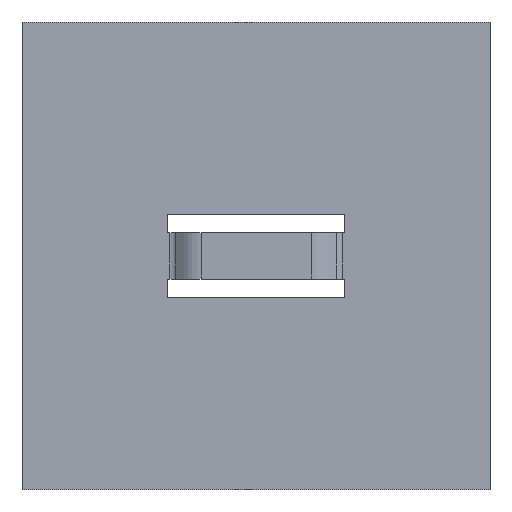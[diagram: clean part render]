
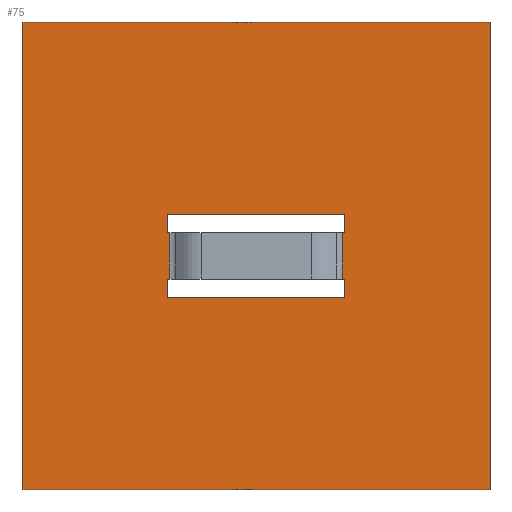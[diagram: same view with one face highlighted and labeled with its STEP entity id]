
A CAD part, top view. The second image highlights one B-rep face of the part: STEP entity #75.
In plain terms, the highlighted planar face has unit normal (0, 0, 1).
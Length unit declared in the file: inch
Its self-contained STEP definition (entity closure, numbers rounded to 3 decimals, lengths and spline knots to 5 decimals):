
#75=ADVANCED_FACE('',(#104,#105),#106,.T.);
#104=FACE_BOUND('',#162,.T.);
#105=FACE_OUTER_BOUND('',#163,.T.);
#106=PLANE('',#164);
#162=EDGE_LOOP('',(#220,#221,#222,#223,#224,#225,#226,#227,#228,#229,#230,#231));
#163=EDGE_LOOP('',(#232,#233,#234,#235));
#164=AXIS2_PLACEMENT_3D('',#236,#237,#238);
#220=ORIENTED_EDGE('',*,*,#472,.T.);
#221=ORIENTED_EDGE('',*,*,#473,.T.);
#222=ORIENTED_EDGE('',*,*,#474,.F.);
#223=ORIENTED_EDGE('',*,*,#475,.T.);
#224=ORIENTED_EDGE('',*,*,#476,.T.);
#225=ORIENTED_EDGE('',*,*,#477,.T.);
#226=ORIENTED_EDGE('',*,*,#478,.T.);
#227=ORIENTED_EDGE('',*,*,#479,.F.);
#228=ORIENTED_EDGE('',*,*,#480,.T.);
#229=ORIENTED_EDGE('',*,*,#481,.F.);
#230=ORIENTED_EDGE('',*,*,#482,.T.);
#231=ORIENTED_EDGE('',*,*,#483,.F.);
#232=ORIENTED_EDGE('',*,*,#484,.T.);
#233=ORIENTED_EDGE('',*,*,#485,.T.);
#234=ORIENTED_EDGE('',*,*,#486,.T.);
#235=ORIENTED_EDGE('',*,*,#487,.F.);
#236=CARTESIAN_POINT('',(-0.0005,0.5235,-0.0235));
#237=DIRECTION('',(0.0,0.0,1.0));
#238=DIRECTION('',(1.0,0.0,0.0));
#472=EDGE_CURVE('',#556,#557,#558,.T.);
#473=EDGE_CURVE('',#557,#559,#560,.T.);
#474=EDGE_CURVE('',#561,#559,#562,.T.);
#475=EDGE_CURVE('',#561,#563,#564,.T.);
#476=EDGE_CURVE('',#563,#565,#566,.T.);
#477=EDGE_CURVE('',#565,#567,#568,.T.);
#478=EDGE_CURVE('',#567,#569,#570,.T.);
#479=EDGE_CURVE('',#571,#569,#572,.T.);
#480=EDGE_CURVE('',#571,#573,#574,.T.);
#481=EDGE_CURVE('',#575,#573,#576,.T.);
#482=EDGE_CURVE('',#575,#577,#578,.T.);
#483=EDGE_CURVE('',#556,#577,#579,.T.);
#484=EDGE_CURVE('',#580,#581,#582,.T.);
#485=EDGE_CURVE('',#581,#583,#584,.T.);
#486=EDGE_CURVE('',#583,#585,#586,.T.);
#487=EDGE_CURVE('',#580,#585,#587,.T.);
#556=VERTEX_POINT('',#696);
#557=VERTEX_POINT('',#697);
#558=LINE('',#698,#699);
#559=VERTEX_POINT('',#700);
#560=LINE('',#701,#702);
#561=VERTEX_POINT('',#703);
#562=LINE('',#704,#705);
#563=VERTEX_POINT('',#706);
#564=LINE('',#707,#708);
#565=VERTEX_POINT('',#709);
#566=LINE('',#710,#711);
#567=VERTEX_POINT('',#712);
#568=LINE('',#713,#714);
#569=VERTEX_POINT('',#715);
#570=LINE('',#716,#717);
#571=VERTEX_POINT('',#718);
#572=LINE('',#719,#720);
#573=VERTEX_POINT('',#721);
#574=LINE('',#722,#723);
#575=VERTEX_POINT('',#724);
#576=LINE('',#725,#726);
#577=VERTEX_POINT('',#727);
#578=LINE('',#728,#729);
#579=LINE('',#730,#731);
#580=VERTEX_POINT('',#732);
#581=VERTEX_POINT('',#733);
#582=LINE('',#734,#735);
#583=VERTEX_POINT('',#736);
#584=LINE('',#737,#738);
#585=VERTEX_POINT('',#739);
#586=LINE('',#740,#741);
#587=LINE('',#742,#743);
#696=CARTESIAN_POINT('',(0.36855,-0.1735,-0.0235));
#697=CARTESIAN_POINT('',(0.37855,-0.1735,-0.0235));
#698=CARTESIAN_POINT('',(0.36855,-0.1735,-0.0235));
#699=VECTOR('',#904,1.0);
#700=CARTESIAN_POINT('',(0.37855,-0.2535,-0.0235));
#701=CARTESIAN_POINT('',(0.37855,-0.4235,-0.0235));
#702=VECTOR('',#905,1.0);
#703=CARTESIAN_POINT('',(-0.37855,-0.2535,-0.0235));
#704=CARTESIAN_POINT('',(-0.0005,-0.2535,-0.0235));
#705=VECTOR('',#906,1.0);
#706=CARTESIAN_POINT('',(-0.37855,-0.1735,-0.0235));
#707=CARTESIAN_POINT('',(-0.37855,-0.4235,-0.0235));
#708=VECTOR('',#907,1.0);
#709=CARTESIAN_POINT('',(-0.36855,-0.1735,-0.0235));
#710=CARTESIAN_POINT('',(-1.0005,-0.1735,-0.0235));
#711=VECTOR('',#908,1.0);
#712=CARTESIAN_POINT('',(-0.36855,0.0235,-0.0235));
#713=CARTESIAN_POINT('',(-0.36855,-0.1735,-0.0235));
#714=VECTOR('',#909,1.0);
#715=CARTESIAN_POINT('',(-0.37855,0.0235,-0.0235));
#716=CARTESIAN_POINT('',(-1.0005,0.0235,-0.0235));
#717=VECTOR('',#910,1.0);
#718=CARTESIAN_POINT('',(-0.37855,0.1035,-0.0235));
#719=CARTESIAN_POINT('',(-0.37855,0.2735,-0.0235));
#720=VECTOR('',#911,1.0);
#721=CARTESIAN_POINT('',(0.37855,0.1035,-0.0235));
#722=CARTESIAN_POINT('',(-0.0005,0.1035,-0.0235));
#723=VECTOR('',#912,1.0);
#724=CARTESIAN_POINT('',(0.37855,0.0235,-0.0235));
#725=CARTESIAN_POINT('',(0.37855,0.2735,-0.0235));
#726=VECTOR('',#913,1.0);
#727=CARTESIAN_POINT('',(0.36855,0.0235,-0.0235));
#728=CARTESIAN_POINT('',(0.36855,0.0235,-0.0235));
#729=VECTOR('',#914,1.0);
#730=CARTESIAN_POINT('',(0.36855,-0.1735,-0.0235));
#731=VECTOR('',#915,1.0);
#732=CARTESIAN_POINT('',(0.9995,-1.0745,-0.0235));
#733=CARTESIAN_POINT('',(0.9995,0.9245,-0.0235));
#734=CARTESIAN_POINT('',(0.9995,0.5235,-0.0235));
#735=VECTOR('',#916,1.0);
#736=CARTESIAN_POINT('',(-1.0005,0.9245,-0.0235));
#737=CARTESIAN_POINT('',(-0.0005,0.9245,-0.0235));
#738=VECTOR('',#917,1.0);
#739=CARTESIAN_POINT('',(-1.0005,-1.0745,-0.0235));
#740=CARTESIAN_POINT('',(-1.0005,0.5235,-0.0235));
#741=VECTOR('',#918,1.0);
#742=CARTESIAN_POINT('',(-0.0005,-1.0745,-0.0235));
#743=VECTOR('',#919,1.0);
#904=DIRECTION('',(1.0,0.0,0.0));
#905=DIRECTION('',(0.0,-1.0,0.0));
#906=DIRECTION('',(1.0,0.0,0.0));
#907=DIRECTION('',(0.0,1.0,0.0));
#908=DIRECTION('',(1.0,0.0,0.0));
#909=DIRECTION('',(0.0,1.0,0.));
#910=DIRECTION('',(-1.0,0.0,0.0));
#911=DIRECTION('',(0.0,-1.0,0.0));
#912=DIRECTION('',(1.0,0.0,0.0));
#913=DIRECTION('',(0.0,1.0,0.0));
#914=DIRECTION('',(-1.0,0.0,0.0));
#915=DIRECTION('',(0.0,1.0,0.));
#916=DIRECTION('',(0.0,1.0,0.0));
#917=DIRECTION('',(-1.0,0.0,0.0));
#918=DIRECTION('',(0.0,-1.0,0.0));
#919=DIRECTION('',(-1.0,0.0,0.0));
